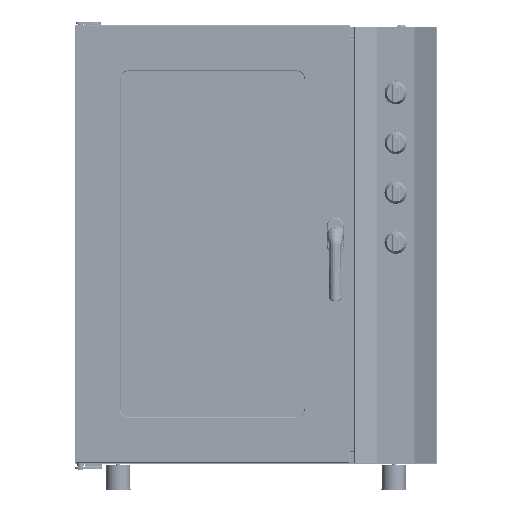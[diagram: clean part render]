
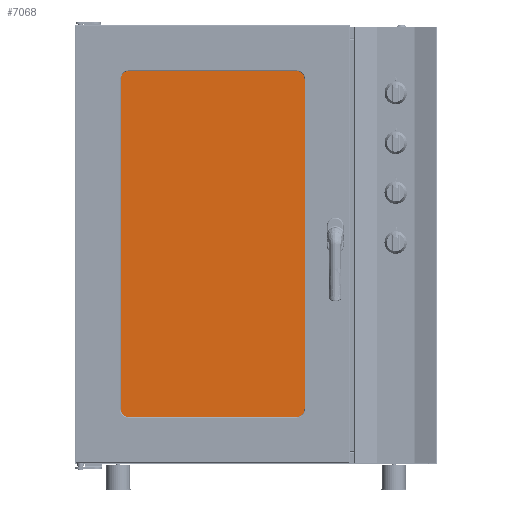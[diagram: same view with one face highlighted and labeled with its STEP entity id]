
A CAD part, front view. The second image highlights one B-rep face of the part: STEP entity #7068.
In plain terms, the highlighted planar face has unit normal (0, -1, 0).
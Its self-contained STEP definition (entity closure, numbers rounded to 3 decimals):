
#7068=ADVANCED_FACE('',(#13241),#10665,.F.);
#10665=PLANE('',#81872);
#13241=FACE_OUTER_BOUND('',#18005,.T.);
#18005=EDGE_LOOP('',(#29384,#29385,#29386,#29387,#29388,#29389,#29390,#29391));
#29384=ORIENTED_EDGE('',*,*,#55110,.T.);
#29385=ORIENTED_EDGE('',*,*,#55118,.F.);
#29386=ORIENTED_EDGE('',*,*,#55113,.T.);
#29387=ORIENTED_EDGE('',*,*,#55119,.F.);
#29388=ORIENTED_EDGE('',*,*,#55116,.F.);
#29389=ORIENTED_EDGE('',*,*,#55120,.F.);
#29390=ORIENTED_EDGE('',*,*,#55121,.F.);
#29391=ORIENTED_EDGE('',*,*,#55122,.F.);
#46652=VERTEX_POINT('',#127535);
#46653=VERTEX_POINT('',#127537);
#46654=VERTEX_POINT('',#127541);
#46655=VERTEX_POINT('',#127543);
#46656=VERTEX_POINT('',#127547);
#46657=VERTEX_POINT('',#127549);
#46658=VERTEX_POINT('',#127555);
#46659=VERTEX_POINT('',#127557);
#55110=EDGE_CURVE('',#46653,#46652,#70076,.T.);
#55113=EDGE_CURVE('',#46655,#46654,#70079,.T.);
#55116=EDGE_CURVE('',#46656,#46657,#70082,.T.);
#55118=EDGE_CURVE('',#46655,#46652,#64977,.T.);
#55119=EDGE_CURVE('',#46657,#46654,#64978,.T.);
#55120=EDGE_CURVE('',#46658,#46656,#64979,.T.);
#55121=EDGE_CURVE('',#46659,#46658,#70084,.T.);
#55122=EDGE_CURVE('',#46653,#46659,#64980,.T.);
#64977=CIRCLE('',#81868,20.);
#64978=CIRCLE('',#81869,20.);
#64979=CIRCLE('',#81870,20.);
#64980=CIRCLE('',#81871,20.);
#70076=LINE('',#127536,#75477);
#70079=LINE('',#127542,#75480);
#70082=LINE('',#127548,#75483);
#70084=LINE('',#127556,#75485);
#75477=VECTOR('',#94343,1.);
#75480=VECTOR('',#94348,1.);
#75483=VECTOR('',#94353,1.);
#75485=VECTOR('',#94363,1.);
#81868=AXIS2_PLACEMENT_3D('',#127552,#94357,#94358);
#81869=AXIS2_PLACEMENT_3D('',#127553,#94359,#94360);
#81870=AXIS2_PLACEMENT_3D('',#127554,#94361,#94362);
#81871=AXIS2_PLACEMENT_3D('',#127558,#94364,#94365);
#81872=AXIS2_PLACEMENT_3D('',#127559,#94366,#94367);
#94343=DIRECTION('',(-1.,0.,0.));
#94348=DIRECTION('',(0.,0.,-1.));
#94353=DIRECTION('',(-1.,0.,0.));
#94357=DIRECTION('',(0.,1.,0.));
#94358=DIRECTION('',(1.,0.,0.));
#94359=DIRECTION('',(0.,1.,0.));
#94360=DIRECTION('',(1.,0.,0.));
#94361=DIRECTION('',(0.,1.,0.));
#94362=DIRECTION('',(1.,0.,0.));
#94363=DIRECTION('',(0.,0.,-1.));
#94364=DIRECTION('',(0.,1.,0.));
#94365=DIRECTION('',(1.,0.,0.));
#94366=DIRECTION('',(0.,1.,0.));
#94367=DIRECTION('',(1.,0.,0.));
#127535=CARTESIAN_POINT('',(144.103,59.205,1064.3));
#127536=CARTESIAN_POINT('',(547.103,59.205,1064.3));
#127537=CARTESIAN_POINT('',(547.103,59.205,1064.3));
#127541=CARTESIAN_POINT('',(124.103,59.205,251.3));
#127542=CARTESIAN_POINT('',(124.103,59.205,1044.3));
#127543=CARTESIAN_POINT('',(124.103,59.205,1044.3));
#127547=CARTESIAN_POINT('',(547.103,59.205,231.3));
#127548=CARTESIAN_POINT('',(547.103,59.205,231.3));
#127549=CARTESIAN_POINT('',(144.103,59.205,231.3));
#127552=CARTESIAN_POINT('',(144.103,59.205,1044.3));
#127553=CARTESIAN_POINT('',(144.103,59.205,251.3));
#127554=CARTESIAN_POINT('',(547.103,59.205,251.3));
#127555=CARTESIAN_POINT('',(567.103,59.205,251.3));
#127556=CARTESIAN_POINT('',(567.103,59.205,1044.3));
#127557=CARTESIAN_POINT('',(567.103,59.205,1044.3));
#127558=CARTESIAN_POINT('',(547.103,59.205,1044.3));
#127559=CARTESIAN_POINT('',(547.103,59.205,1064.3));
